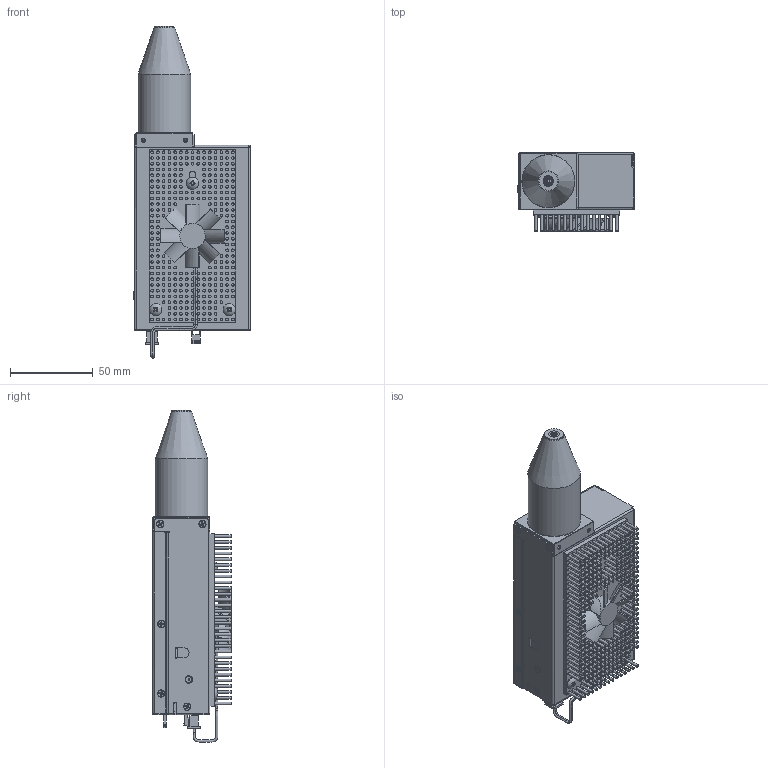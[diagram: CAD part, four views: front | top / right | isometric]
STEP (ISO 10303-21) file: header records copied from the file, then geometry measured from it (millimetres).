
FILE_DESCRIPTION (( 'STEP AP214' ), '1' );
FILE_NAME ('TUB00157-STRAIGHT.STEP', '2025-01-24T20:24:24', ( '' ), ( '' ), 'SwSTEP 2.0', 'SolidWorks 2023', '' );
FILE_SCHEMA (( 'AUTOMOTIVE_DESIGN' ));
Length unit declared in the file: inch
Products named in the file (1): TUB00157-STRAIGHT
Bounding box: 70.51 x 47.12 x 200.33 mm (x, y, z)
Volume: 283307.9 mm3; surface area: 79990.4 mm2
Topology: 1 solids, 29 shells, 2777 faces, 6679 edges, 4343 vertices
Faces by surface type: plane 1807, cylinder 691, cone 219, bspline 51, torus 6, sphere 3
Full cylindrical faces by diameter (mm): 1.6 x314, 1.694 x4, 1.778 x8, 1.846 x12, 1.9 x1, 2.05 x11, 2.184 x6, 2.387 x6, 2.819 x1, 3.454 x6, 3.87 x8, 3.962 x2, 4.083 x8, 4.19 x13, 4.216 x6, 5.461 x2, 5.588 x2, 6.35 x6, 7.34 x3, 9.652 x1, 11.43 x1, 15.24 x1, 27.94 x1, 31.75 x1
Entity records: 98262 total; most frequent: CARTESIAN_POINT 37374, DIRECTION 12143, ORIENTED_EDGE 11804, EDGE_CURVE 5902, AXIS2_PLACEMENT_3D 4281, VERTEX_POINT 4110, EDGE_LOOP 3866, VECTOR 3581
